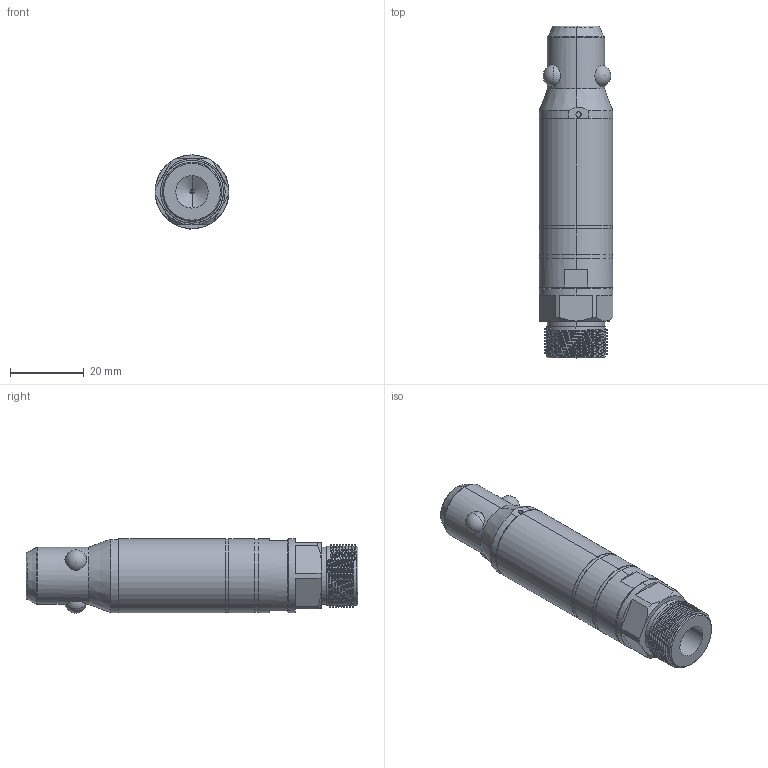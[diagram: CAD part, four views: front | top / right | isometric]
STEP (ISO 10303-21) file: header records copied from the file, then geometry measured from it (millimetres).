
FILE_DESCRIPTION (( 'STEP AP203' ), '1' );
FILE_NAME ('GMP20A111.STEP', '2024-01-15T09:47:35', ( '微软用户' ), ( '微软中国' ), 'SwSTEP 2.0', 'SolidWorks 2018', '' );
FILE_SCHEMA (( 'CONFIG_CONTROL_DESIGN' ));
Length unit declared in the file: millimetre
Products named in the file (1): GMP20A111
Bounding box: 20 x 90 x 20.12 mm (x, y, z)
Volume: 13609 mm3; surface area: 13531.3 mm2
Topology: 6 solids, 6 shells, 251 faces, 673 edges, 443 vertices
Faces by surface type: cylinder 132, plane 49, cone 36, bspline 21, sphere 13
Entity records: 17396 total; most frequent: CARTESIAN_POINT 11655, ORIENTED_EDGE 1316, DIRECTION 1038, EDGE_CURVE 658, VERTEX_POINT 434, AXIS2_PLACEMENT_3D 409, EDGE_LOOP 276, FACE_OUTER_BOUND 251
